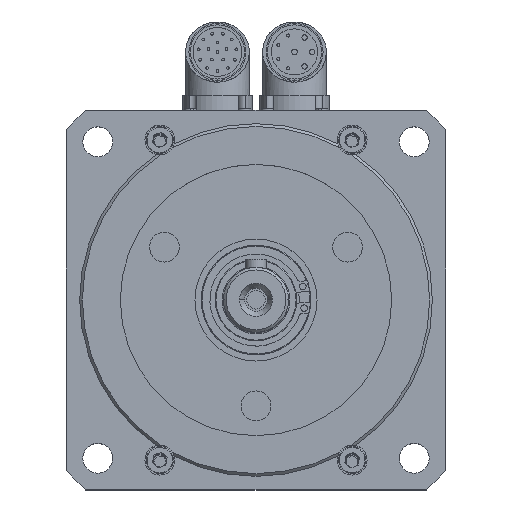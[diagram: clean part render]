
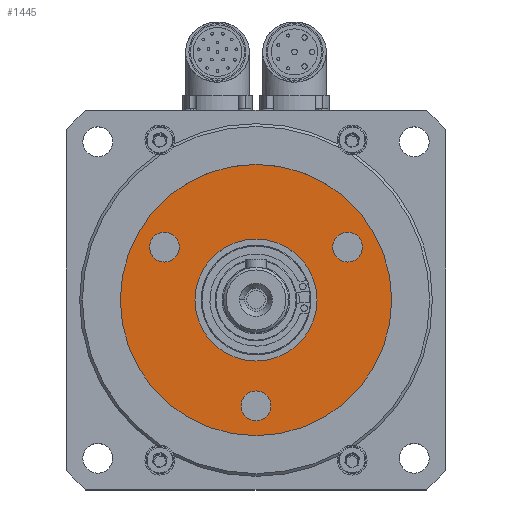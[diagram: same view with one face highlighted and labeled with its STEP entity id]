
A CAD part, top view. The second image highlights one B-rep face of the part: STEP entity #1445.
In plain terms, the highlighted planar face has unit normal (0, 0, 1).
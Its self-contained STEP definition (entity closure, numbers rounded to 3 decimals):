
#848 = VERTEX_POINT ( 'NONE', #14683 ) ;
#913 = VERTEX_POINT ( 'NONE', #14659 ) ;
#961 = VERTEX_POINT ( 'NONE', #14710 ) ;
#1053 = VERTEX_POINT ( 'NONE', #14750 ) ;
#1178 = VERTEX_POINT ( 'NONE', #10629 ) ;
#1240 = VERTEX_POINT ( 'NONE', #10729 ) ;
#1354 = VERTEX_POINT ( 'NONE', #10640 ) ;
#1445 = ADVANCED_FACE ( 'NONE', ( #8537, #8544, #8546, #8548, #8539 ), #5326, .T. ) ;
#2536 = EDGE_LOOP ( 'NONE', ( #14274, #14277 ) ) ;
#2537 = EDGE_LOOP ( 'NONE', ( #14255, #14259 ) ) ;
#2539 = EDGE_LOOP ( 'NONE', ( #14264, #14267 ) ) ;
#2541 = EDGE_LOOP ( 'NONE', ( #14270, #14272 ) ) ;
#2543 = EDGE_LOOP ( 'NONE', ( #14261, #14263 ) ) ;
#3261 = CIRCLE ( 'NONE', #13481, 5.5 ) ;
#3262 = CIRCLE ( 'NONE', #13483, 50. ) ;
#3266 = CIRCLE ( 'NONE', #13482, 5.5 ) ;
#3268 = CIRCLE ( 'NONE', #13484, 5.5 ) ;
#4008 = CARTESIAN_POINT ( 'NONE',  ( -22.5, 0., 21.5 ) ) ;
#4048 = CARTESIAN_POINT ( 'NONE',  ( -5.5, -39., 21.5 ) ) ;
#4316 = EDGE_CURVE ( 'NONE', #15373, #1053, #10869, .T. ) ;
#4320 = EDGE_CURVE ( 'NONE', #848, #15446, #10873, .T. ) ;
#4322 = EDGE_CURVE ( 'NONE', #1053, #15373, #10877, .T. ) ;
#4326 = EDGE_CURVE ( 'NONE', #1178, #9124, #10882, .T. ) ;
#4328 = EDGE_CURVE ( 'NONE', #1240, #961, #10884, .T. ) ;
#4330 = EDGE_CURVE ( 'NONE', #913, #1354, #10886, .T. ) ;
#5326 = PLANE ( 'NONE',  #11623 ) ;
#5343 = DIRECTION ( 'NONE',  ( 1., 0., 0. ) ) ;
#5345 = DIRECTION ( 'NONE',  ( 0., 0., 1. ) ) ;
#5371 = CARTESIAN_POINT ( 'NONE',  ( 0., 50., 21.5 ) ) ;
#8087 = EDGE_CURVE ( 'NONE', #9124, #1178, #3261, .T. ) ;
#8088 = EDGE_CURVE ( 'NONE', #1354, #913, #3262, .T. ) ;
#8090 = EDGE_CURVE ( 'NONE', #15446, #848, #3266, .T. ) ;
#8091 = EDGE_CURVE ( 'NONE', #961, #1240, #3268, .T. ) ;
#8537 = FACE_BOUND ( 'NONE', #2537, .T. ) ;
#8539 = FACE_BOUND ( 'NONE', #2536, .T. ) ;
#8544 = FACE_BOUND ( 'NONE', #2543, .T. ) ;
#8546 = FACE_BOUND ( 'NONE', #2539, .T. ) ;
#8548 = FACE_OUTER_BOUND ( 'NONE', #2541, .T. ) ;
#9124 = VERTEX_POINT ( 'NONE', #10501 ) ;
#9743 = CARTESIAN_POINT ( 'NONE',  ( 0., -39., 21.5 ) ) ;
#9745 = CARTESIAN_POINT ( 'NONE',  ( 0., 0., 21.5 ) ) ;
#9746 = DIRECTION ( 'NONE',  ( 0., 0., 1. ) ) ;
#9747 = DIRECTION ( 'NONE',  ( 1., 0., 0. ) ) ;
#9757 = CARTESIAN_POINT ( 'NONE',  ( 0., 0., 21.5 ) ) ;
#9758 = DIRECTION ( 'NONE',  ( 0., 0., 1. ) ) ;
#9759 = DIRECTION ( 'NONE',  ( 1., 0., 0. ) ) ;
#9764 = DIRECTION ( 'NONE',  ( 0., 0., 1. ) ) ;
#9765 = DIRECTION ( 'NONE',  ( 1., 0., 0. ) ) ;
#9766 = CARTESIAN_POINT ( 'NONE',  ( 33.775, 19.5, 21.5 ) ) ;
#9774 = DIRECTION ( 'NONE',  ( 0., 0., 1. ) ) ;
#9775 = DIRECTION ( 'NONE',  ( 1., 0., 0. ) ) ;
#9779 = CARTESIAN_POINT ( 'NONE',  ( -33.775, 19.5, 21.5 ) ) ;
#9780 = DIRECTION ( 'NONE',  ( 0., 0., 1. ) ) ;
#9781 = DIRECTION ( 'NONE',  ( 1., 0., 0. ) ) ;
#9785 = CARTESIAN_POINT ( 'NONE',  ( 0., 0., 21.5 ) ) ;
#9786 = DIRECTION ( 'NONE',  ( 0., 0., 1. ) ) ;
#9787 = DIRECTION ( 'NONE',  ( 1., 0., 0. ) ) ;
#10424 = CARTESIAN_POINT ( 'NONE',  ( 33.775, 19.5, 21.5 ) ) ;
#10437 = DIRECTION ( 'NONE',  ( 0., 0., 1. ) ) ;
#10438 = DIRECTION ( 'NONE',  ( 1., 0., 0. ) ) ;
#10439 = CARTESIAN_POINT ( 'NONE',  ( 0., 0., 21.5 ) ) ;
#10440 = DIRECTION ( 'NONE',  ( 0., 0., 1. ) ) ;
#10441 = DIRECTION ( 'NONE',  ( 1., 0., 0. ) ) ;
#10442 = CARTESIAN_POINT ( 'NONE',  ( -33.775, 19.5, 21.5 ) ) ;
#10445 = CARTESIAN_POINT ( 'NONE',  ( 0., -39., 21.5 ) ) ;
#10447 = DIRECTION ( 'NONE',  ( 0., 0., 1. ) ) ;
#10448 = DIRECTION ( 'NONE',  ( 1., 0., 0. ) ) ;
#10450 = DIRECTION ( 'NONE',  ( 0., 0., 1. ) ) ;
#10451 = DIRECTION ( 'NONE',  ( 1., 0., 0. ) ) ;
#10501 = CARTESIAN_POINT ( 'NONE',  ( 28.275, 19.5, 21.5 ) ) ;
#10629 = CARTESIAN_POINT ( 'NONE',  ( 39.275, 19.5, 21.5 ) ) ;
#10640 = CARTESIAN_POINT ( 'NONE',  ( -50., 0., 21.5 ) ) ;
#10729 = CARTESIAN_POINT ( 'NONE',  ( -28.275, 19.5, 21.5 ) ) ;
#10869 = CIRCLE ( 'NONE', #11836, 22.5 ) ;
#10873 = CIRCLE ( 'NONE', #11840, 5.5 ) ;
#10877 = CIRCLE ( 'NONE', #11841, 22.5 ) ;
#10882 = CIRCLE ( 'NONE', #11843, 5.5 ) ;
#10884 = CIRCLE ( 'NONE', #11845, 5.5 ) ;
#10886 = CIRCLE ( 'NONE', #11847, 50. ) ;
#11623 = AXIS2_PLACEMENT_3D ( 'NONE', #5371, #5345, #5343 ) ;
#11836 = AXIS2_PLACEMENT_3D ( 'NONE', #9745, #9746, #9747 ) ;
#11840 = AXIS2_PLACEMENT_3D ( 'NONE', #9743, #9758, #9759 ) ;
#11841 = AXIS2_PLACEMENT_3D ( 'NONE', #9757, #9764, #9765 ) ;
#11843 = AXIS2_PLACEMENT_3D ( 'NONE', #9766, #9774, #9775 ) ;
#11845 = AXIS2_PLACEMENT_3D ( 'NONE', #9779, #9780, #9781 ) ;
#11847 = AXIS2_PLACEMENT_3D ( 'NONE', #9785, #9786, #9787 ) ;
#13481 = AXIS2_PLACEMENT_3D ( 'NONE', #10424, #10437, #10438 ) ;
#13482 = AXIS2_PLACEMENT_3D ( 'NONE', #10445, #10447, #10448 ) ;
#13483 = AXIS2_PLACEMENT_3D ( 'NONE', #10439, #10440, #10441 ) ;
#13484 = AXIS2_PLACEMENT_3D ( 'NONE', #10442, #10450, #10451 ) ;
#14255 = ORIENTED_EDGE ( 'NONE', *, *, #4328, .F. ) ;
#14259 = ORIENTED_EDGE ( 'NONE', *, *, #8091, .F. ) ;
#14261 = ORIENTED_EDGE ( 'NONE', *, *, #4326, .F. ) ;
#14263 = ORIENTED_EDGE ( 'NONE', *, *, #8087, .F. ) ;
#14264 = ORIENTED_EDGE ( 'NONE', *, *, #4320, .F. ) ;
#14267 = ORIENTED_EDGE ( 'NONE', *, *, #8090, .F. ) ;
#14270 = ORIENTED_EDGE ( 'NONE', *, *, #4330, .T. ) ;
#14272 = ORIENTED_EDGE ( 'NONE', *, *, #8088, .T. ) ;
#14274 = ORIENTED_EDGE ( 'NONE', *, *, #4322, .F. ) ;
#14277 = ORIENTED_EDGE ( 'NONE', *, *, #4316, .F. ) ;
#14659 = CARTESIAN_POINT ( 'NONE',  ( 50., 0., 21.5 ) ) ;
#14683 = CARTESIAN_POINT ( 'NONE',  ( 5.5, -39., 21.5 ) ) ;
#14710 = CARTESIAN_POINT ( 'NONE',  ( -39.275, 19.5, 21.5 ) ) ;
#14750 = CARTESIAN_POINT ( 'NONE',  ( 22.5, 0., 21.5 ) ) ;
#15373 = VERTEX_POINT ( 'NONE', #4008 ) ;
#15446 = VERTEX_POINT ( 'NONE', #4048 ) ;
